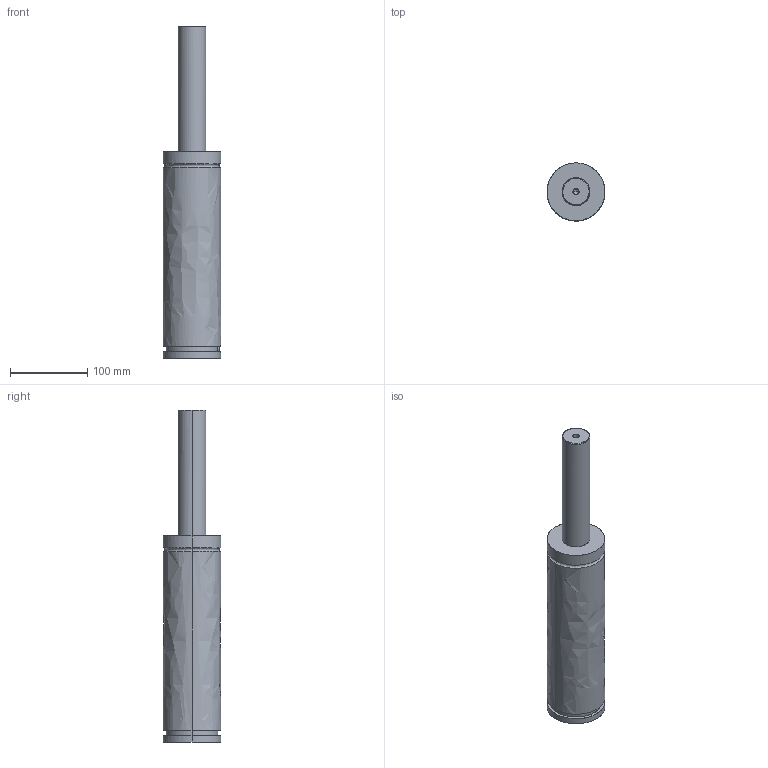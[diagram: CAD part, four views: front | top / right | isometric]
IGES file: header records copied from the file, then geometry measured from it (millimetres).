
Global section: file name: E:\UnigraphicsGraphicData\MISUMI_PRESS-PARTS\IGES\3d_gse75-160_03854_r00.igs; native system: NX V5.0; preprocessor: UGS NX IGES V5.0; author: MISUMI; date: 20110105.160801; units: millimetre
Bounding box: 75 x 75 x 430 mm (x, y, z)
Surface area: 94806 mm2 (no closed solid volume)
Topology: 0 solids, 0 shells, 75 faces, 606 edges, 604 vertices
Faces by surface type: bspline 75
